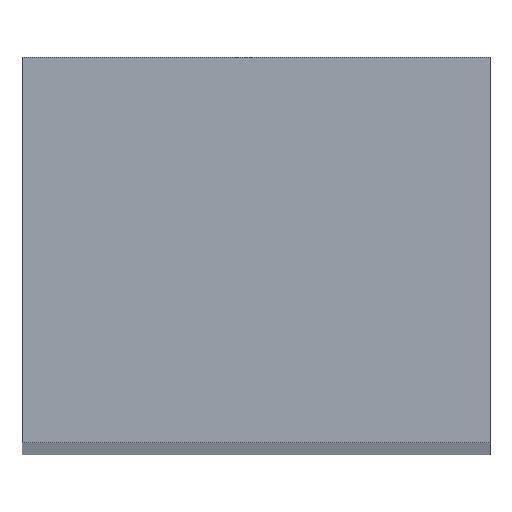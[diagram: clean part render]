
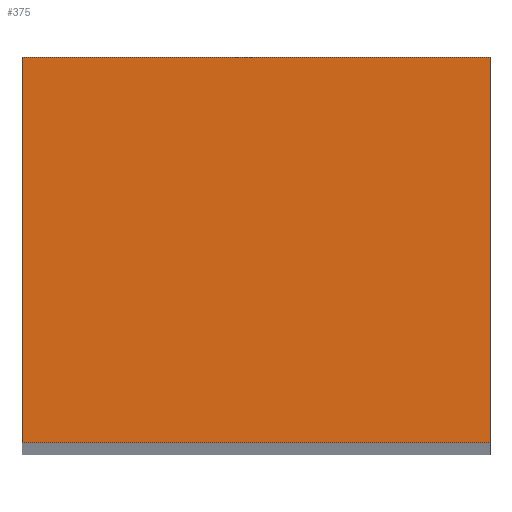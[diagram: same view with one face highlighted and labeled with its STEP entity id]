
A CAD part, top view. The second image highlights one B-rep face of the part: STEP entity #375.
In plain terms, the highlighted planar face has unit normal (0, 0, 1).
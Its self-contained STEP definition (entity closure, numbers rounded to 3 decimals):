
#30 = CARTESIAN_POINT ( 'NONE',  ( 0., 0., 250. ) ) ;
#42 = CARTESIAN_POINT ( 'NONE',  ( -8.5, -7., 250. ) ) ;
#52 = VECTOR ( 'NONE', #251, 1000. ) ;
#54 = ORIENTED_EDGE ( 'NONE', *, *, #131, .T. ) ;
#59 = VERTEX_POINT ( 'NONE', #42 ) ;
#76 = EDGE_CURVE ( 'NONE', #297, #234, #376, .T. ) ;
#100 = VECTOR ( 'NONE', #216, 1000. ) ;
#107 = CARTESIAN_POINT ( 'NONE',  ( -8.5, -7., 250. ) ) ;
#131 = EDGE_CURVE ( 'NONE', #59, #297, #305, .T. ) ;
#141 = VECTOR ( 'NONE', #247, 1000. ) ;
#147 = EDGE_CURVE ( 'NONE', #431, #59, #425, .T. ) ;
#167 = PLANE ( 'NONE',  #242 ) ;
#178 = CARTESIAN_POINT ( 'NONE',  ( 8.5, 7., 250. ) ) ;
#207 = CARTESIAN_POINT ( 'NONE',  ( -8.5, 7., 250. ) ) ;
#216 = DIRECTION ( 'NONE',  ( 1., 0., 0. ) ) ;
#222 = CARTESIAN_POINT ( 'NONE',  ( 8.5, 7., 250. ) ) ;
#223 = EDGE_CURVE ( 'NONE', #234, #431, #224, .T. ) ;
#224 = LINE ( 'NONE', #353, #378 ) ;
#234 = VERTEX_POINT ( 'NONE', #222 ) ;
#235 = DIRECTION ( 'NONE',  ( 0., 0., 1. ) ) ;
#236 = EDGE_LOOP ( 'NONE', ( #417, #334, #397, #54 ) ) ;
#239 = CARTESIAN_POINT ( 'NONE',  ( 8.5, -7., 250. ) ) ;
#242 = AXIS2_PLACEMENT_3D ( 'NONE', #30, #235, #328 ) ;
#247 = DIRECTION ( 'NONE',  ( 0., 1., 0. ) ) ;
#251 = DIRECTION ( 'NONE',  ( 0., -1., 0. ) ) ;
#295 = FACE_OUTER_BOUND ( 'NONE', #236, .T. ) ;
#297 = VERTEX_POINT ( 'NONE', #239 ) ;
#305 = LINE ( 'NONE', #107, #100 ) ;
#328 = DIRECTION ( 'NONE',  ( 1., 0., 0. ) ) ;
#334 = ORIENTED_EDGE ( 'NONE', *, *, #223, .T. ) ;
#348 = CARTESIAN_POINT ( 'NONE',  ( -8.5, 7., 250. ) ) ;
#353 = CARTESIAN_POINT ( 'NONE',  ( -8.5, 7., 250. ) ) ;
#375 = ADVANCED_FACE ( 'NONE', ( #295 ), #167, .T. ) ;
#376 = LINE ( 'NONE', #178, #141 ) ;
#378 = VECTOR ( 'NONE', #418, 1000. ) ;
#397 = ORIENTED_EDGE ( 'NONE', *, *, #147, .T. ) ;
#417 = ORIENTED_EDGE ( 'NONE', *, *, #76, .T. ) ;
#418 = DIRECTION ( 'NONE',  ( -1., 0., 0. ) ) ;
#425 = LINE ( 'NONE', #348, #52 ) ;
#431 = VERTEX_POINT ( 'NONE', #207 ) ;
